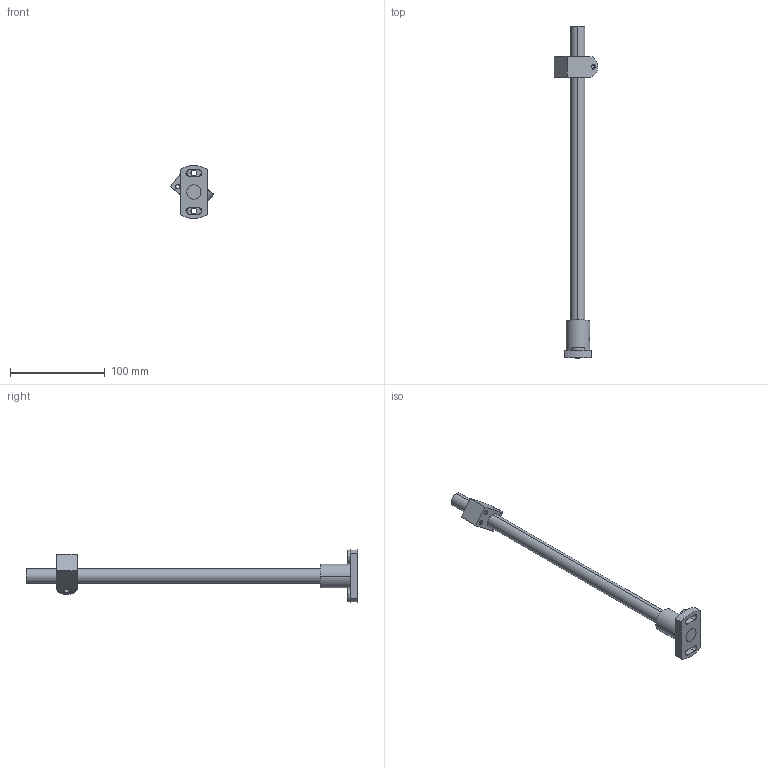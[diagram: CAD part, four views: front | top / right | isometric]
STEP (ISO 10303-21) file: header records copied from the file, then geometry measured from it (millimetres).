
FILE_DESCRIPTION (( 'STEP AP214' ), '1' );
FILE_NAME ('センサー土台2.STEP', '2025-07-28T03:00:29', ( '' ), ( '' ), 'SwSTEP 2.0', 'SolidWorks 2023', '' );
FILE_SCHEMA (( 'AUTOMOTIVE_DESIGN' ));
Length unit declared in the file: millimetre
Products named in the file (9): LFSTN15-350; WSSM14-6-3-1; AMNW15_b; SCB5-15; センサー土台2; LFSBF15_B; AMNW15; MSSF5-5; LFSTN15-350B
Assembly tree (10 placements, depth 3):
  センサー土台2
    LFSTN15-350
      LFSTN15-350B
      LFSBF15_B
      WSSM14-6-3-1  x2
      MSSF5-5  x2
    AMNW15
      AMNW15_b
      SCB5-15
Bounding box: 45.85 x 350 x 55.83 mm (x, y, z)
Volume: 95703.2 mm3; surface area: 33210.2 mm2
Topology: 8 solids, 8 shells, 171 faces, 386 edges, 229 vertices
Faces by surface type: plane 66, cone 54, cylinder 51
Entity records: 5785 total; most frequent: CARTESIAN_POINT 892, DIRECTION 716, ORIENTED_EDGE 612, EDGE_CURVE 306, AXIS2_PLACEMENT_3D 276, VERTEX_POINT 186, LINE 164, VECTOR 164
